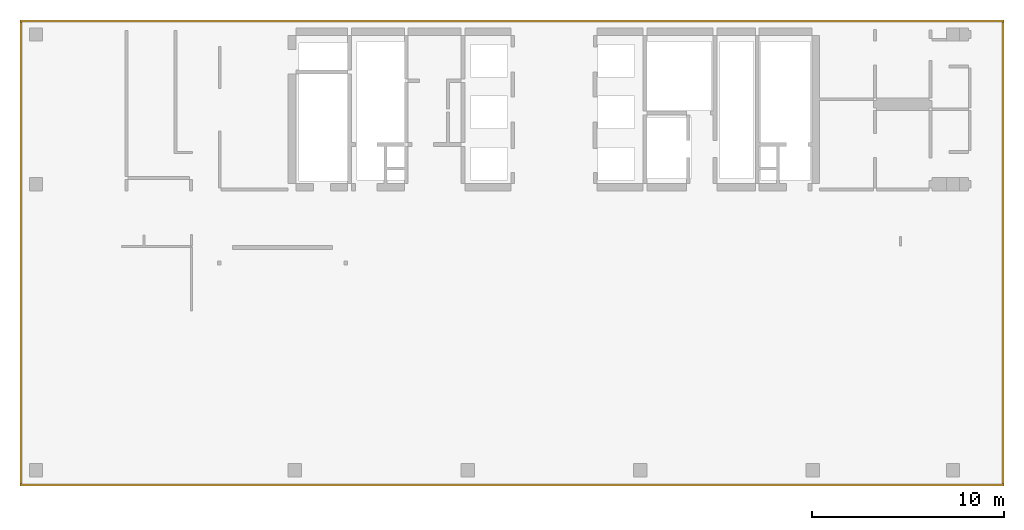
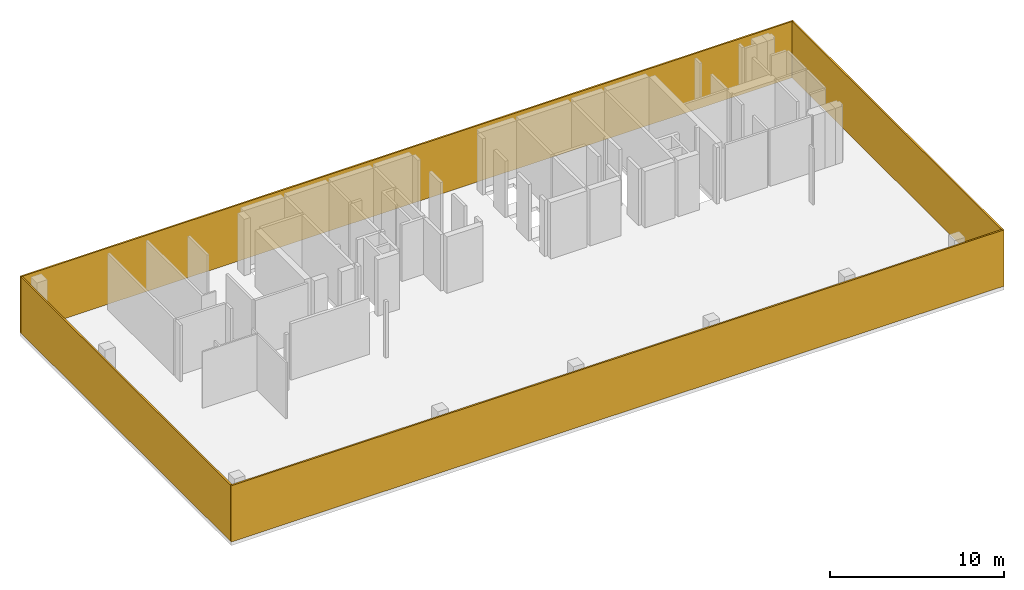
# One storey, part 4 of 4: 4 curtain walls.
"""IFC4 building model written with IfcOpenShell, lengths in millimetres."""

from ifc_helpers import new_model, si_unit, frame, origin, place, context, project, spatial, triangles, element, save


model = new_model("IFC4")

# Units and contexts
model_context = context("Model", 3, precision=0.001, world=origin())
ifc_project = project(units=[si_unit("LENGTHUNIT", "METRE", prefix="MILLI"), si_unit("AREAUNIT", "SQUARE_METRE"), si_unit("VOLUMEUNIT", "CUBIC_METRE")], contexts=[model_context])

# Site, building, storey
site_placement = place(None, origin())
site = spatial("IfcSite", under=ifc_project, at=site_placement, Name="Site", CompositionType="ELEMENT")
building_placement = place(site_placement, origin())
building = spatial("IfcBuilding", under=site, at=building_placement, Name="INNOCEAN", CompositionType="ELEMENT")
storey_placement = place(building_placement, frame((0.0, 0.0, 59600.0)))
storey = spatial("IfcBuildingStorey", under=building, at=storey_placement, Name="F14", CompositionType="ELEMENT", Elevation=59600.0)

# Curtain walls
curtain_wall_1_placement = place(storey_placement, origin())
element("IfcCurtainWall", 1, at=curtain_wall_1_placement, inside=storey, Name="F14_Facade_F14_001", context=model_context, shape_type="Tessellation", body=[
    triangles([(50420.3187250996, 25825.974025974, 0.0), (-846.215139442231, 25825.974025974, 0.0), (-846.215139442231, 25825.974025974, 3950.0), (50420.3187250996, 25825.974025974, 3950.0), (50420.3187250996, 25720.1298701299, 0.0), (50420.3187250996, 25720.1298701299, 3950.0), (-846.215139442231, 25720.1298701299, 0.0), (-846.215139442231, 25720.1298701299, 3950.0)], [[1, 2, 3], [1, 3, 4], [5, 1, 4], [5, 4, 6], [7, 5, 6], [7, 6, 8], [2, 7, 8], [2, 8, 3], [2, 1, 5], [2, 5, 7], [4, 3, 6], [6, 3, 8]], closed=True),
])
curtain_wall_2_placement = place(storey_placement, origin())
element("IfcCurtainWall", 2, at=curtain_wall_2_placement, inside=storey, Name="F14_Facade_F14_002", context=model_context, shape_type="Tessellation", body=[
    triangles([(50420.3187250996, 1658.22510822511, 0.0), (-846.215139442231, 1658.22510822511, 0.0), (-846.215139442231, 1658.22510822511, 3950.0), (50420.3187250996, 1658.22510822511, 3950.0), (50420.3187250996, 1552.38095238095, 0.0), (50420.3187250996, 1552.38095238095, 3950.0), (-846.215139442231, 1552.38095238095, 0.0), (-846.215139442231, 1552.38095238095, 3950.0)], [[1, 2, 3], [1, 3, 4], [5, 1, 4], [5, 4, 6], [7, 5, 6], [7, 6, 8], [2, 7, 8], [2, 8, 3], [2, 1, 5], [2, 5, 7], [4, 3, 6], [6, 3, 8]], closed=True),
])
curtain_wall_3_placement = place(storey_placement, origin())
element("IfcCurtainWall", 3, at=curtain_wall_3_placement, inside=storey, Name="F14_Facade_F14_003", context=model_context, shape_type="Tessellation", body=[
    triangles([(-740.438247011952, 25720.1298701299, 0.0), (-846.215139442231, 25720.1298701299, 0.0), (-846.215139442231, 25720.1298701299, 3950.0), (-740.438247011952, 25720.1298701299, 3950.0), (-740.438247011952, 1658.22510822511, 0.0), (-740.438247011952, 1658.22510822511, 3950.0), (-846.215139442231, 1658.22510822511, 0.0), (-846.215139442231, 1658.22510822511, 3950.0)], [[1, 2, 3], [1, 3, 4], [5, 1, 4], [5, 4, 6], [7, 5, 6], [7, 6, 8], [2, 7, 8], [2, 8, 3], [2, 1, 5], [2, 5, 7], [4, 3, 6], [6, 3, 8]], closed=True),
])
curtain_wall_4_placement = place(storey_placement, origin())
element("IfcCurtainWall", 4, at=curtain_wall_4_placement, inside=storey, Name="F14_Facade_F14_004", context=model_context, shape_type="Tessellation", body=[
    triangles([(50420.3187250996, 25720.1298701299, 0.0), (50314.5418326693, 25720.1298701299, 0.0), (50314.5418326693, 25720.1298701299, 3950.0), (50420.3187250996, 25720.1298701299, 3950.0), (50420.3187250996, 1658.22510822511, 0.0), (50420.3187250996, 1658.22510822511, 3950.0), (50314.5418326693, 1658.22510822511, 0.0), (50314.5418326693, 1658.22510822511, 3950.0)], [[1, 2, 3], [1, 3, 4], [5, 1, 4], [5, 4, 6], [7, 5, 6], [7, 6, 8], [2, 7, 8], [2, 8, 3], [2, 1, 5], [2, 5, 7], [4, 3, 6], [6, 3, 8]], closed=True),
])

save(model, "model.ifc")
